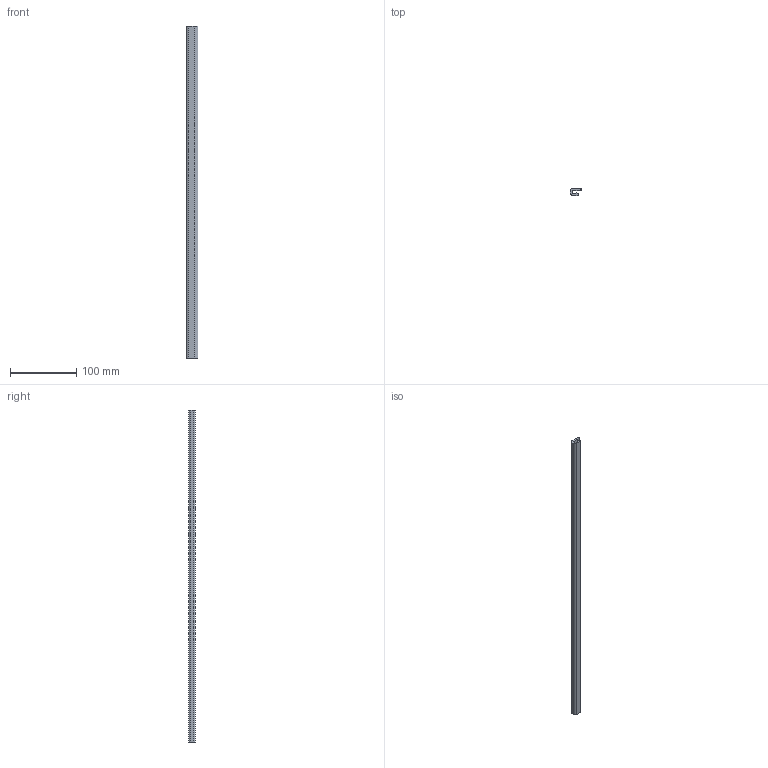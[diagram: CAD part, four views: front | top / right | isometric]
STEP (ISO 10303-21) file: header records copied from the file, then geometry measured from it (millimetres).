
FILE_DESCRIPTION (( 'STEP AP214' ), '1' );
FILE_NAME ('R2PG-HD1000.STEP', '2011-05-09T07:01:52', ( '.' ), ( '' ), 'SwSTEP 2.0', 'SolidWorks 2010', '' );
FILE_SCHEMA (( 'AUTOMOTIVE_DESIGN' ));
Length unit declared in the file: millimetre
Products named in the file (1): R2PG-HD1000
Bounding box: 17 x 10 x 500 mm (x, y, z)
Volume: 44109 mm3; surface area: 34427.5 mm2
Topology: 1 solids, 1 shells, 14 faces, 36 edges, 24 vertices
Faces by surface type: plane 11, cylinder 3
Entity records: 460 total; most frequent: CARTESIAN_POINT 75, ORIENTED_EDGE 72, DIRECTION 72, EDGE_CURVE 36, LINE 30, VECTOR 30, VERTEX_POINT 24, AXIS2_PLACEMENT_3D 21
